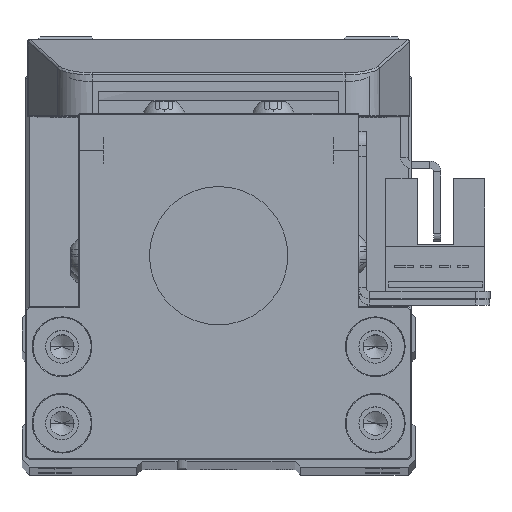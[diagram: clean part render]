
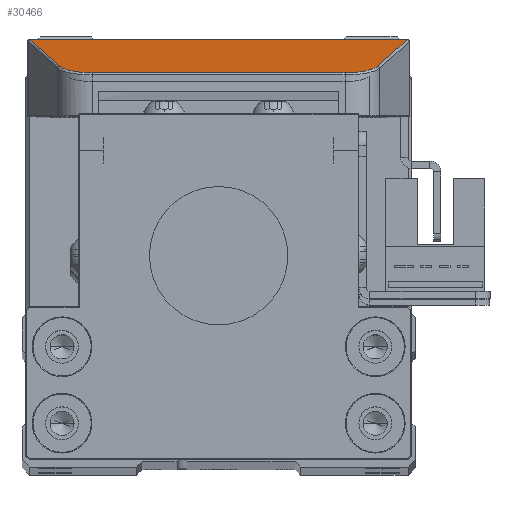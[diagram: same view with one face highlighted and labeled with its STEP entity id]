
A CAD part, top view. The second image highlights one B-rep face of the part: STEP entity #30466.
In plain terms, the highlighted planar face has unit normal (0, 0.962, 0.274) as drawn and (0, 0.274, 0.962) by its records, which use the part's own axes.
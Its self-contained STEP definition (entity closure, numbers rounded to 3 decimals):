
#140 = CARTESIAN_POINT ( 'NONE',  ( 17.344, 25.282, -4.638 ) ) ;
#587 = EDGE_CURVE ( 'NONE', #17214, #12064, #16613, .T. ) ;
#1119 = EDGE_CURVE ( 'NONE', #31577, #8668, #23268, .T. ) ;
#1160 = CARTESIAN_POINT ( 'NONE',  ( -17.344, 25.282, -4.638 ) ) ;
#1233 = ORIENTED_EDGE ( 'NONE', *, *, #30754, .T. ) ;
#1625 = ORIENTED_EDGE ( 'NONE', *, *, #7634, .T. ) ;
#1766 = EDGE_LOOP ( 'NONE', ( #24599, #10339, #9165, #8115, #1625, #1233, #6799, #32267 ) ) ;
#1853 = CARTESIAN_POINT ( 'NONE',  ( 25.872, 9.281, -0.08 ) ) ;
#2087 = EDGE_CURVE ( 'NONE', #8668, #11253, #14924, .T. ) ;
#2780 = CARTESIAN_POINT ( 'NONE',  ( 25.87, 9.287, -0.082 ) ) ;
#2960 = DIRECTION ( 'NONE',  ( 0., -0.274, -0.962 ) ) ;
#3461 = VERTEX_POINT ( 'NONE', #140 ) ;
#3795 = CARTESIAN_POINT ( 'NONE',  ( 26.25, 9.269, -0.077 ) ) ;
#4029 = CARTESIAN_POINT ( 'NONE',  ( -19.466, 25.282, -4.638 ) ) ;
#4429 =( BOUNDED_CURVE ( )  B_SPLINE_CURVE ( 3, ( #28981, #4029, #11573, #29093 ),
 .UNSPECIFIED., .F., .T. ) 
 B_SPLINE_CURVE_WITH_KNOTS ( ( 4, 4 ),
 ( 0., 1.263 ),
 .UNSPECIFIED. ) 
 CURVE ( )  GEOMETRIC_REPRESENTATION_ITEM ( )  RATIONAL_B_SPLINE_CURVE ( ( 1., 0.871, 0.871, 1. ) ) 
 REPRESENTATION_ITEM ( '' )  );
#5082 = CARTESIAN_POINT ( 'NONE',  ( -25.876, 9.269, -0.077 ) ) ;
#6398 = CARTESIAN_POINT ( 'NONE',  ( -22.655, 19.393, -2.96 ) ) ;
#6684 = CARTESIAN_POINT ( 'NONE',  ( -25.87, 9.287, -0.082 ) ) ;
#6799 = ORIENTED_EDGE ( 'NONE', *, *, #587, .T. ) ;
#7098 = LINE ( 'NONE', #23639, #7873 ) ;
#7165 = VECTOR ( 'NONE', #29657, 1000. ) ;
#7634 = EDGE_CURVE ( 'NONE', #3461, #23900, #7098, .T. ) ;
#7873 = VECTOR ( 'NONE', #13767, 1000. ) ;
#8115 = ORIENTED_EDGE ( 'NONE', *, *, #22117, .T. ) ;
#8176 = CARTESIAN_POINT ( 'NONE',  ( -25.87, 9.287, -0.082 ) ) ;
#8519 = CARTESIAN_POINT ( 'NONE',  ( 21.179, 24.03, -4.281 ) ) ;
#8668 = VERTEX_POINT ( 'NONE', #25300 ) ;
#8825 = DIRECTION ( 'NONE',  ( 1., 0., 0. ) ) ;
#8900 = CARTESIAN_POINT ( 'NONE',  ( 21.823, 22.007, -3.705 ) ) ;
#9165 = ORIENTED_EDGE ( 'NONE', *, *, #11755, .T. ) ;
#9406 = CARTESIAN_POINT ( 'NONE',  ( 25.876, 9.269, -0.077 ) ) ;
#10339 = ORIENTED_EDGE ( 'NONE', *, *, #2087, .T. ) ;
#11253 = VERTEX_POINT ( 'NONE', #2780 ) ;
#11573 = CARTESIAN_POINT ( 'NONE',  ( -21.179, 24.03, -4.281 ) ) ;
#11707 = CARTESIAN_POINT ( 'NONE',  ( -25.876, 9.269, -0.077 ) ) ;
#11755 = EDGE_CURVE ( 'NONE', #11253, #15683, #13027, .T. ) ;
#12064 = VERTEX_POINT ( 'NONE', #8176 ) ;
#12184 = DIRECTION ( 'NONE',  ( -0.293, -0.92, 0.262 ) ) ;
#12654 =( BOUNDED_CURVE ( )  B_SPLINE_CURVE ( 3, ( #26030, #8519, #13561, #31083 ),
 .UNSPECIFIED., .F., .T. ) 
 B_SPLINE_CURVE_WITH_KNOTS ( ( 4, 4 ),
 ( 5.02, 6.283 ),
 .UNSPECIFIED. ) 
 CURVE ( )  GEOMETRIC_REPRESENTATION_ITEM ( )  RATIONAL_B_SPLINE_CURVE ( ( 1., 0.871, 0.871, 1. ) ) 
 REPRESENTATION_ITEM ( '' )  );
#13027 = LINE ( 'NONE', #14676, #7165 ) ;
#13561 = CARTESIAN_POINT ( 'NONE',  ( 19.466, 25.282, -4.638 ) ) ;
#13767 = DIRECTION ( 'NONE',  ( -1., 0., 0. ) ) ;
#14676 = CARTESIAN_POINT ( 'NONE',  ( 15.221, 42.754, -9.615 ) ) ;
#14924 =( BOUNDED_CURVE ( )  B_SPLINE_CURVE ( 3, ( #9406, #19345, #1853, #26901 ),
 .UNSPECIFIED., .F., .T. ) 
 B_SPLINE_CURVE_WITH_KNOTS ( ( 4, 4 ),
 ( 5.009, 5.02 ),
 .UNSPECIFIED. ) 
 CURVE ( )  GEOMETRIC_REPRESENTATION_ITEM ( )  RATIONAL_B_SPLINE_CURVE ( ( 1., 1., 1., 1. ) ) 
 REPRESENTATION_ITEM ( '' )  );
#15683 = VERTEX_POINT ( 'NONE', #8900 ) ;
#16581 = VECTOR ( 'NONE', #8825, 1000. ) ;
#16613 = LINE ( 'NONE', #6398, #29946 ) ;
#17214 = VERTEX_POINT ( 'NONE', #27976 ) ;
#17836 = PLANE ( 'NONE',  #23063 ) ;
#17943 = CARTESIAN_POINT ( 'NONE',  ( -43.406, 25.5, -4.7 ) ) ;
#17946 = FACE_OUTER_BOUND ( 'NONE', #1766, .T. ) ;
#19345 = CARTESIAN_POINT ( 'NONE',  ( 25.874, 9.275, -0.078 ) ) ;
#20484 = DIRECTION ( 'NONE',  ( 0., 0.962, -0.274 ) ) ;
#22117 = EDGE_CURVE ( 'NONE', #15683, #3461, #12654, .T. ) ;
#23063 = AXIS2_PLACEMENT_3D ( 'NONE', #17943, #2960, #20484 ) ;
#23268 = LINE ( 'NONE', #3795, #16581 ) ;
#23639 = CARTESIAN_POINT ( 'NONE',  ( -17.344, 25.282, -4.638 ) ) ;
#23900 = VERTEX_POINT ( 'NONE', #1160 ) ;
#24188 = CARTESIAN_POINT ( 'NONE',  ( -25.872, 9.281, -0.08 ) ) ;
#24599 = ORIENTED_EDGE ( 'NONE', *, *, #1119, .T. ) ;
#25300 = CARTESIAN_POINT ( 'NONE',  ( 25.876, 9.269, -0.077 ) ) ;
#26030 = CARTESIAN_POINT ( 'NONE',  ( 21.823, 22.007, -3.705 ) ) ;
#26700 = CARTESIAN_POINT ( 'NONE',  ( -25.874, 9.275, -0.078 ) ) ;
#26901 = CARTESIAN_POINT ( 'NONE',  ( 25.87, 9.287, -0.082 ) ) ;
#27596 = EDGE_CURVE ( 'NONE', #12064, #31577, #27693, .T. ) ;
#27693 =( BOUNDED_CURVE ( )  B_SPLINE_CURVE ( 3, ( #6684, #24188, #26700, #11707 ),
 .UNSPECIFIED., .F., .F. ) 
 B_SPLINE_CURVE_WITH_KNOTS ( ( 4, 4 ),
 ( 1.263, 1.274 ),
 .UNSPECIFIED. ) 
 CURVE ( )  GEOMETRIC_REPRESENTATION_ITEM ( )  RATIONAL_B_SPLINE_CURVE ( ( 1., 1., 1., 1. ) ) 
 REPRESENTATION_ITEM ( '' )  );
#27976 = CARTESIAN_POINT ( 'NONE',  ( -21.823, 22.007, -3.705 ) ) ;
#28981 = CARTESIAN_POINT ( 'NONE',  ( -17.344, 25.282, -4.638 ) ) ;
#29093 = CARTESIAN_POINT ( 'NONE',  ( -21.823, 22.007, -3.705 ) ) ;
#29657 = DIRECTION ( 'NONE',  ( -0.293, 0.92, -0.262 ) ) ;
#29946 = VECTOR ( 'NONE', #12184, 1000. ) ;
#30466 = ADVANCED_FACE ( 'NONE', ( #17946 ), #17836, .F. ) ;
#30754 = EDGE_CURVE ( 'NONE', #23900, #17214, #4429, .T. ) ;
#31083 = CARTESIAN_POINT ( 'NONE',  ( 17.344, 25.282, -4.638 ) ) ;
#31577 = VERTEX_POINT ( 'NONE', #5082 ) ;
#32267 = ORIENTED_EDGE ( 'NONE', *, *, #27596, .T. ) ;
